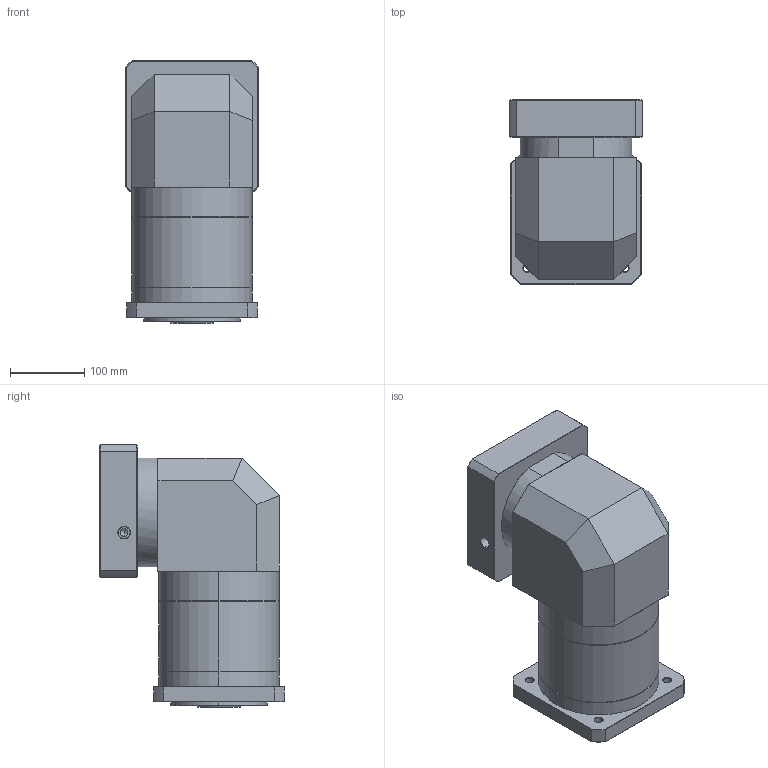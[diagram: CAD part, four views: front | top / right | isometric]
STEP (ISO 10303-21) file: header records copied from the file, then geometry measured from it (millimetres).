
FILE_DESCRIPTION (( 'STEP AP214' ), '1' );
FILE_NAME ('ZFR160A-K35-L3-P2-35-150-200-M12.step', '2023-09-03T09:03:53', ( '' ), ( '' ), 'SwSTEP 2.0', 'SolidWorks 2016', '' );
FILE_SCHEMA (( 'AUTOMOTIVE_DESIGN' ));
Length unit declared in the file: millimetre
Products named in the file (1): ZFR160A-K35-L3-P2-35-150-200-M12
Bounding box: 178 x 247.5 x 352.7 mm (x, y, z)
Volume: 8514993.2 mm3; surface area: 502633.6 mm2
Topology: 6 solids, 6 shells, 2135 faces, 5646 edges, 3618 vertices
Faces by surface type: plane 1039, bspline 403, cylinder 369, cone 304, torus 20
Entity records: 118294 total; most frequent: CARTESIAN_POINT 46998, ORIENTED_EDGE 11236, DIRECTION 8161, EDGE_CURVE 5618, VERTEX_POINT 3618, LINE 3029, VECTOR 3029, AXIS2_PLACEMENT_3D 2566
